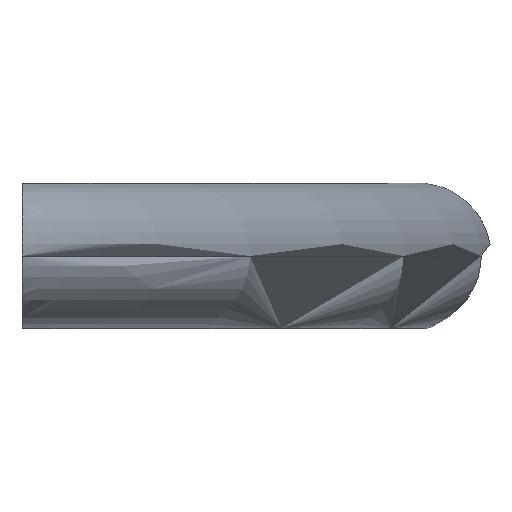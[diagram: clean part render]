
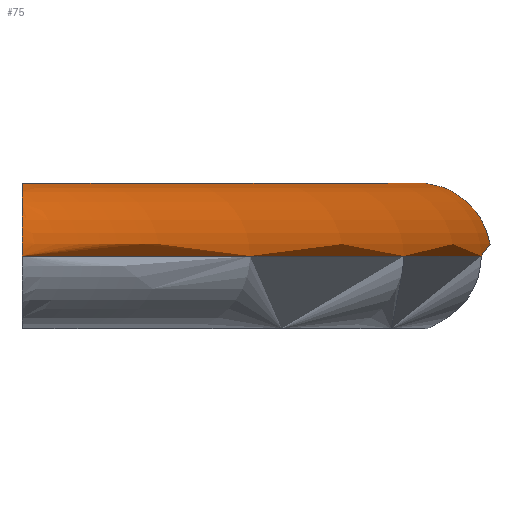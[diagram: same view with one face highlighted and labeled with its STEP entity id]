
A CAD part, left-side view. The second image highlights one B-rep face of the part: STEP entity #75.
In plain terms, the highlighted toroidal (fillet/blend) face has major radius 362.56 mm and minor radius 5 mm.
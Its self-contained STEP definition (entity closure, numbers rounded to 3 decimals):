
#75 = ADVANCED_FACE( '', ( #86 ), #87, .T. );
#86 = FACE_OUTER_BOUND( '', #108, .T. );
#87 = TOROIDAL_SURFACE( '', #109, 362.56, 5. );
#108 = EDGE_LOOP( '', ( #130, #131, #132, #133 ) );
#109 = AXIS2_PLACEMENT_3D( '', #134, #135, #136 );
#130 = ORIENTED_EDGE( '', *, *, #196, .F. );
#131 = ORIENTED_EDGE( '', *, *, #197, .T. );
#132 = ORIENTED_EDGE( '', *, *, #198, .F. );
#133 = ORIENTED_EDGE( '', *, *, #199, .T. );
#134 = CARTESIAN_POINT( '', ( 128., 335.56, 0. ) );
#135 = DIRECTION( '', ( 0., 0., -1. ) );
#136 = DIRECTION( '', ( -1., 0., 0. ) );
#196 = EDGE_CURVE( '', #214, #215, #216, .T. );
#197 = EDGE_CURVE( '', #214, #217, #218, .T. );
#198 = EDGE_CURVE( '', #219, #217, #220, .T. );
#199 = EDGE_CURVE( '', #219, #215, #221, .T. );
#214 = VERTEX_POINT( '', #244 );
#215 = VERTEX_POINT( '', #245 );
#216 = CIRCLE( '', #246, 367.56 );
#217 = VERTEX_POINT( '', #247 );
#218 = B_SPLINE_CURVE_WITH_KNOTS( '', 3, ( #248, #249, #250, #251, #252, #253, #254, #255, #256, #257, #258, #259, #260, #261, #262, #263, #264, #265, #266, #267, #268, #269, #270, #271, #272, #273, #274, #275, #276, #277, #278, #279, #280, #281, #282, #283, #284, #285, #286, #287, #288, #289 ), .UNSPECIFIED., .F., .F., ( 4, 2, 2, 2, 2, 2, 2, 2, 2, 2, 2, 2, 2, 2, 2, 2, 2, 2, 2, 2, 4 ), ( 0., 0.31, 0.621, 0.983, 1.345, 2.48, 3.616, 4.896, 6.176, 8.736, 13.856, 19.35, 22.097, 23.47, 24.844, 26.072, 27.3, 27.656, 28.012, 28.304, 28.596 ), .UNSPECIFIED. );
#219 = VERTEX_POINT( '', #290 );
#220 = CIRCLE( '', #291, 357.56 );
#221 = B_SPLINE_CURVE_WITH_KNOTS( '', 3, ( #292, #293, #294, #295, #296, #297, #298, #299, #300, #301, #302, #303, #304, #305, #306, #307, #308, #309, #310, #311, #312, #313, #314, #315, #316, #317, #318, #319, #320, #321, #322, #323, #324, #325, #326, #327, #328, #329, #330, #331, #332, #333 ), .UNSPECIFIED., .F., .F., ( 4, 2, 2, 2, 2, 2, 2, 2, 2, 2, 2, 2, 2, 2, 2, 2, 2, 2, 2, 2, 4 ), ( 28.596, 28.888, 29.18, 29.536, 29.892, 31.12, 32.348, 33.722, 35.095, 37.842, 43.336, 48.456, 51.016, 52.296, 53.576, 54.711, 55.846, 56.209, 56.571, 56.881, 57.192 ), .UNSPECIFIED. );
#244 = CARTESIAN_POINT( '', ( 277.999, 0., 0. ) );
#245 = CARTESIAN_POINT( '', ( -21.999, 0., 0. ) );
#246 = AXIS2_PLACEMENT_3D( '', #442, #443, #444 );
#247 = CARTESIAN_POINT( '', ( 251.485, 0., 0. ) );
#248 = CARTESIAN_POINT( '', ( 277.999, 0., 0. ) );
#249 = CARTESIAN_POINT( '', ( 277.999, 0., 0.103 ) );
#250 = CARTESIAN_POINT( '', ( 277.991, 0., 0.217 ) );
#251 = CARTESIAN_POINT( '', ( 277.955, 0., 0.44 ) );
#252 = CARTESIAN_POINT( '', ( 277.927, 0., 0.55 ) );
#253 = CARTESIAN_POINT( '', ( 277.859, 0., 0.764 ) );
#254 = CARTESIAN_POINT( '', ( 277.809, 0., 0.887 ) );
#255 = CARTESIAN_POINT( '', ( 277.69, 0., 1.123 ) );
#256 = CARTESIAN_POINT( '', ( 277.621, 0., 1.236 ) );
#257 = CARTESIAN_POINT( '', ( 277.34, 0., 1.649 ) );
#258 = CARTESIAN_POINT( '', ( 277.055, 0., 1.945 ) );
#259 = CARTESIAN_POINT( '', ( 276.421, 0., 2.467 ) );
#260 = CARTESIAN_POINT( '', ( 276.073, 0., 2.695 ) );
#261 = CARTESIAN_POINT( '', ( 275.374, 0., 3.094 ) );
#262 = CARTESIAN_POINT( '', ( 274.984, 0., 3.281 ) );
#263 = CARTESIAN_POINT( '', ( 274.179, 0., 3.62 ) );
#264 = CARTESIAN_POINT( '', ( 273.762, 0., 3.77 ) );
#265 = CARTESIAN_POINT( '', ( 272.483, 0., 4.177 ) );
#266 = CARTESIAN_POINT( '', ( 271.589, 0., 4.387 ) );
#267 = CARTESIAN_POINT( '', ( 268.867, 0., 4.873 ) );
#268 = CARTESIAN_POINT( '', ( 266.999, 0., 5. ) );
#269 = CARTESIAN_POINT( '', ( 263.461, 0., 5. ) );
#270 = CARTESIAN_POINT( '', ( 261.458, 0., 4.853 ) );
#271 = CARTESIAN_POINT( '', ( 258.524, 0., 4.343 ) );
#272 = CARTESIAN_POINT( '', ( 257.559, 0., 4.125 ) );
#273 = CARTESIAN_POINT( '', ( 256.17, 0., 3.713 ) );
#274 = CARTESIAN_POINT( '', ( 255.716, 0., 3.561 ) );
#275 = CARTESIAN_POINT( '', ( 254.837, 0., 3.224 ) );
#276 = CARTESIAN_POINT( '', ( 254.411, 0., 3.038 ) );
#277 = CARTESIAN_POINT( '', ( 253.64, 0., 2.643 ) );
#278 = CARTESIAN_POINT( '', ( 253.251, 0., 2.417 ) );
#279 = CARTESIAN_POINT( '', ( 252.533, 0., 1.893 ) );
#280 = CARTESIAN_POINT( '', ( 252.205, 0., 1.594 ) );
#281 = CARTESIAN_POINT( '', ( 251.886, 0., 1.173 ) );
#282 = CARTESIAN_POINT( '', ( 251.813, 0., 1.065 ) );
#283 = CARTESIAN_POINT( '', ( 251.686, 0., 0.838 ) );
#284 = CARTESIAN_POINT( '', ( 251.632, 0., 0.72 ) );
#285 = CARTESIAN_POINT( '', ( 251.56, 0., 0.516 ) );
#286 = CARTESIAN_POINT( '', ( 251.532, 0., 0.413 ) );
#287 = CARTESIAN_POINT( '', ( 251.494, 0., 0.204 ) );
#288 = CARTESIAN_POINT( '', ( 251.485, 0., 0.097 ) );
#289 = CARTESIAN_POINT( '', ( 251.485, 0., 0. ) );
#290 = CARTESIAN_POINT( '', ( 4.515, 0., 0. ) );
#291 = AXIS2_PLACEMENT_3D( '', #445, #446, #447 );
#292 = CARTESIAN_POINT( '', ( 4.515, 0., 0. ) );
#293 = CARTESIAN_POINT( '', ( 4.515, 0., 0.097 ) );
#294 = CARTESIAN_POINT( '', ( 4.506, 0., 0.204 ) );
#295 = CARTESIAN_POINT( '', ( 4.468, 0., 0.413 ) );
#296 = CARTESIAN_POINT( '', ( 4.44, 0., 0.516 ) );
#297 = CARTESIAN_POINT( '', ( 4.368, 0., 0.72 ) );
#298 = CARTESIAN_POINT( '', ( 4.314, 0., 0.838 ) );
#299 = CARTESIAN_POINT( '', ( 4.187, 0., 1.065 ) );
#300 = CARTESIAN_POINT( '', ( 4.114, 0., 1.173 ) );
#301 = CARTESIAN_POINT( '', ( 3.795, 0., 1.594 ) );
#302 = CARTESIAN_POINT( '', ( 3.467, 0., 1.893 ) );
#303 = CARTESIAN_POINT( '', ( 2.749, 0., 2.417 ) );
#304 = CARTESIAN_POINT( '', ( 2.36, 0., 2.643 ) );
#305 = CARTESIAN_POINT( '', ( 1.589, 0., 3.038 ) );
#306 = CARTESIAN_POINT( '', ( 1.163, 0., 3.224 ) );
#307 = CARTESIAN_POINT( '', ( 0.284, 0., 3.561 ) );
#308 = CARTESIAN_POINT( '', ( -0.17, 0., 3.713 ) );
#309 = CARTESIAN_POINT( '', ( -1.559, 0., 4.125 ) );
#310 = CARTESIAN_POINT( '', ( -2.524, 0., 4.343 ) );
#311 = CARTESIAN_POINT( '', ( -5.458, 0., 4.853 ) );
#312 = CARTESIAN_POINT( '', ( -7.461, 0., 5. ) );
#313 = CARTESIAN_POINT( '', ( -10.999, 0., 5. ) );
#314 = CARTESIAN_POINT( '', ( -12.867, 0., 4.873 ) );
#315 = CARTESIAN_POINT( '', ( -15.589, 0., 4.387 ) );
#316 = CARTESIAN_POINT( '', ( -16.483, 0., 4.177 ) );
#317 = CARTESIAN_POINT( '', ( -17.762, 0., 3.77 ) );
#318 = CARTESIAN_POINT( '', ( -18.179, 0., 3.62 ) );
#319 = CARTESIAN_POINT( '', ( -18.984, 0., 3.281 ) );
#320 = CARTESIAN_POINT( '', ( -19.374, 0., 3.094 ) );
#321 = CARTESIAN_POINT( '', ( -20.073, 0., 2.695 ) );
#322 = CARTESIAN_POINT( '', ( -20.421, 0., 2.467 ) );
#323 = CARTESIAN_POINT( '', ( -21.055, 0., 1.945 ) );
#324 = CARTESIAN_POINT( '', ( -21.34, 0., 1.649 ) );
#325 = CARTESIAN_POINT( '', ( -21.621, 0., 1.236 ) );
#326 = CARTESIAN_POINT( '', ( -21.69, 0., 1.123 ) );
#327 = CARTESIAN_POINT( '', ( -21.809, 0., 0.887 ) );
#328 = CARTESIAN_POINT( '', ( -21.859, 0., 0.764 ) );
#329 = CARTESIAN_POINT( '', ( -21.927, 0., 0.55 ) );
#330 = CARTESIAN_POINT( '', ( -21.955, 0., 0.44 ) );
#331 = CARTESIAN_POINT( '', ( -21.991, 0., 0.217 ) );
#332 = CARTESIAN_POINT( '', ( -21.999, 0., 0.103 ) );
#333 = CARTESIAN_POINT( '', ( -21.999, 0., 0. ) );
#442 = CARTESIAN_POINT( '', ( 128., 335.56, 0. ) );
#443 = DIRECTION( '', ( 0., 0., -1. ) );
#444 = DIRECTION( '', ( -1., 0., 0. ) );
#445 = CARTESIAN_POINT( '', ( 128., 335.56, 0. ) );
#446 = DIRECTION( '', ( 0., 0., 1. ) );
#447 = DIRECTION( '', ( -1., 0., 0. ) );
